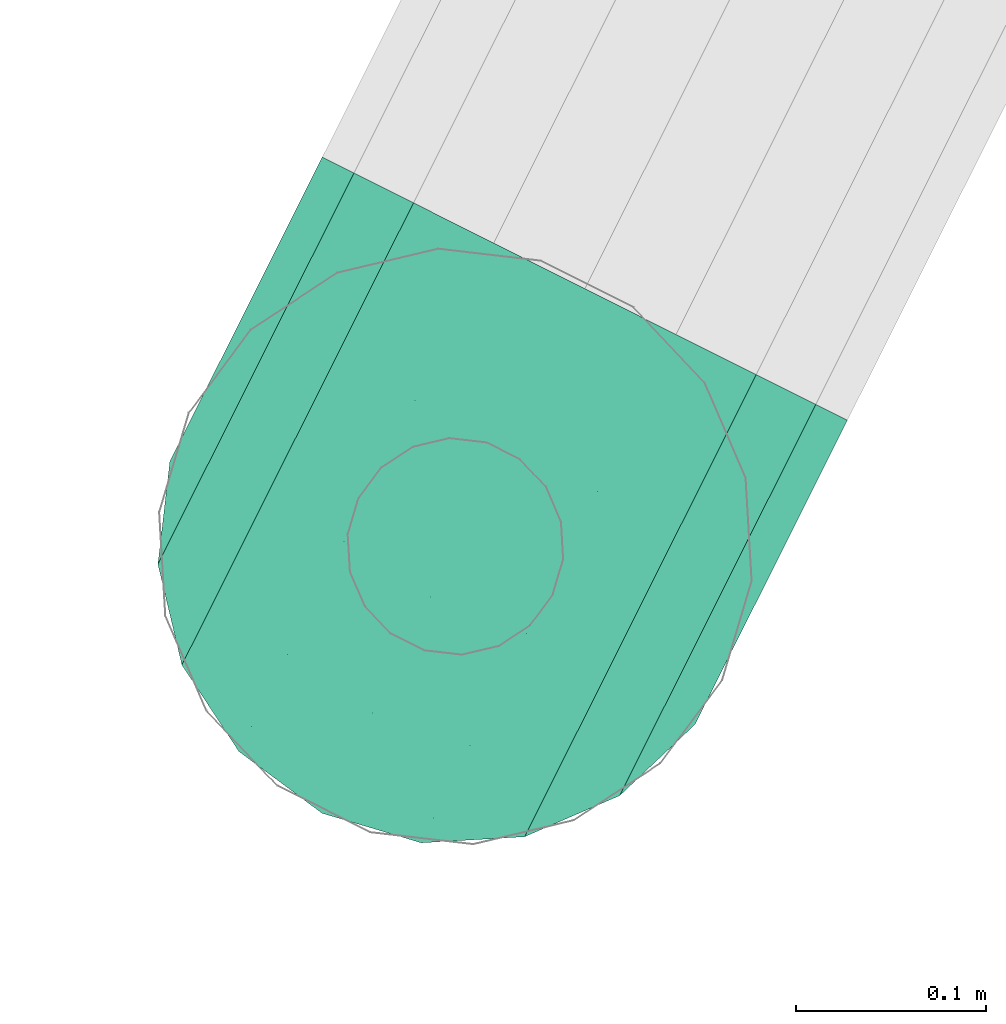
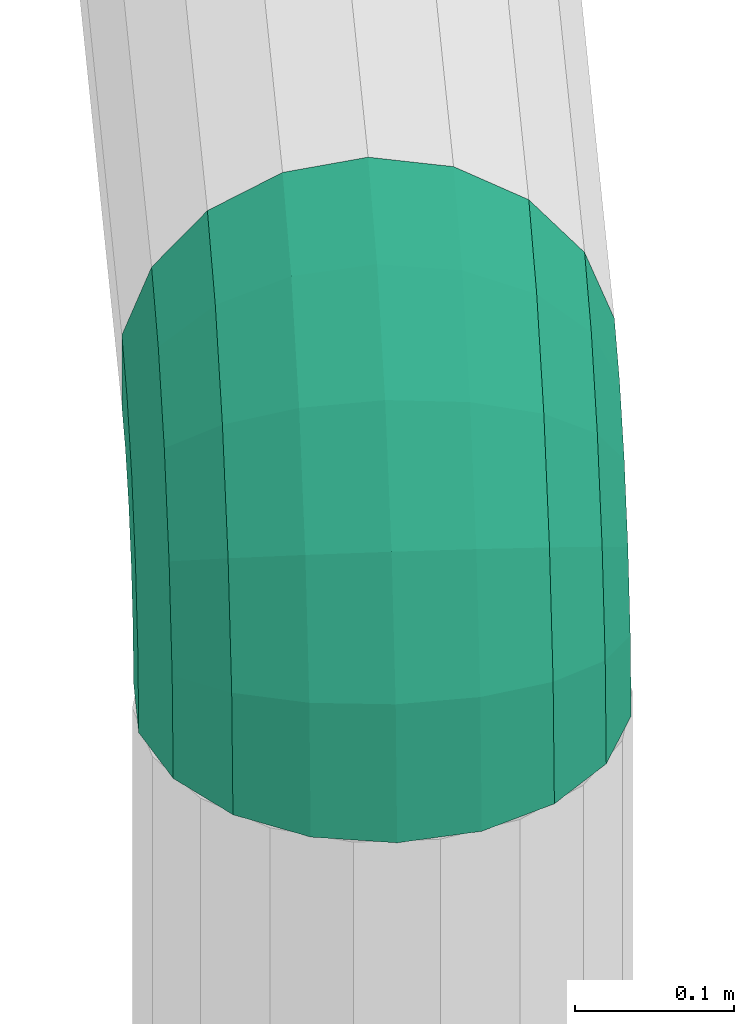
# One storey, part 50 of 152: 1 flow segment.
"""IFC2X3 building model written with IfcOpenShell, lengths in metres."""

from ifc_helpers import new_model, si_unit, derived_unit, direction, frame, origin, place, context, subcontext, project, spatial, face_set, surface_model, source, transform, mapped, material, type_object, type_shapes, element, save


model = new_model("IFC2X3")

# Units and contexts
model_context = context("Model", 3, precision=5.2338327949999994e-05, world=origin(), true_north=direction((0.0, 1.0)))
body_context = subcontext(model_context, "Body", "Model", "MODEL_VIEW")
ifc_project = project(units=[si_unit("LENGTHUNIT", "METRE"), si_unit("AREAUNIT", "SQUARE_METRE"), si_unit("VOLUMEUNIT", "CUBIC_METRE"), si_unit("MASSUNIT", "GRAM", prefix="KILO"), si_unit("PLANEANGLEUNIT", "RADIAN"), derived_unit("THERMALTRANSMITTANCEUNIT", [(si_unit("MASSUNIT", "GRAM", prefix="KILO"), 1), (si_unit("THERMODYNAMICTEMPERATUREUNIT", "KELVIN"), -1), (si_unit("TIMEUNIT", "SECOND"), -3)])], contexts=[model_context])

# Site, building, storey
site_placement = place(None, frame((0.0, 0.0, 0.0), z_axis=(0.0, 0.0, 1.0), x_axis=(0.8939966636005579, -0.4480736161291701, 0.0)))
site = spatial("IfcSite", under=ifc_project, at=site_placement, Name="Default", CompositionType="ELEMENT")
building_placement = place(site_placement, origin())
building = spatial("IfcBuilding", under=site, at=building_placement, CompositionType="ELEMENT")
storey_placement = place(building_placement, frame((0.0, 0.0, 2.7499999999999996)))
storey = spatial("IfcBuildingStorey", under=building, at=storey_placement, Name="1. Obergeschoss", CompositionType="ELEMENT", Elevation=2.7499999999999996)

# Flow segment
ifc_material = material(Name="IfcSurfaceStyle #9317")
distribution_element_type = type_object("IfcDistributionElementType", Name="Rohrbogen 9709:Rohrbogen 9709", material=ifc_material)
shared_shape = source(origin(), body_context, "Body", "SurfaceModel", [
    surface_model("IfcFaceBasedSurfaceModel", [(25.095700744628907, 0.6996688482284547, 6.717313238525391), (25.095700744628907, 0.7642997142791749, 6.727549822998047), (25.076153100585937, 0.7007338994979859, 6.7140355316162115), (25.076153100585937, 0.7642997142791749, 6.724103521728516), (25.095700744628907, 0.6413644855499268, 6.687605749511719), (25.076153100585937, 0.6433903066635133, 6.684817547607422), (25.095700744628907, 0.5950938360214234, 6.641335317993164), (25.076153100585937, 0.5978821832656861, 6.6393092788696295), (25.095700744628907, 0.5653862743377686, 6.5830307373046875), (25.076153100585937, 0.5686641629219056, 6.581965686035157), (25.095700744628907, 0.5551497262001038, 6.518399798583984), (25.076153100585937, 0.5585963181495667, 6.518399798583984), (25.058965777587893, 0.7038005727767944, 6.70459715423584), (25.058965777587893, 0.7642997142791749, 6.714179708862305), (25.058965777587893, 0.6492234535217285, 6.676788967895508), (25.058965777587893, 0.6059108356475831, 6.633476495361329), (25.058965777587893, 0.5781024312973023, 6.578899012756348), (25.058965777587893, 0.5685203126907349, 6.518399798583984), (25.046206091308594, 0.7084989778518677, 6.690136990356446), (25.046206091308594, 0.7642997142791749, 6.698974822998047), (25.046206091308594, 0.6581604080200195, 6.66448797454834), (25.046206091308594, 0.6182114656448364, 6.624539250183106), (25.046206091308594, 0.5925627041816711, 6.574200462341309), (25.046206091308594, 0.5837247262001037, 6.518399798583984), (25.039418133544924, 0.7642997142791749, 6.680324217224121), (25.039418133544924, 0.7142625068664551, 6.672399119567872), (25.039418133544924, 0.669123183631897, 6.649399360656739), (25.039418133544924, 0.6333004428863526, 6.613576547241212), (25.039418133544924, 0.6103009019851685, 6.568437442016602), (25.039418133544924, 0.6023757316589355, 6.518399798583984), (25.039418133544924, 0.7203958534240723, 6.653522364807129), (25.039418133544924, 0.7642997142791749, 6.660476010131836), (25.039418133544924, 0.6807895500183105, 6.633341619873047), (25.039418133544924, 0.6493578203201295, 6.601910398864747), (25.039418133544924, 0.629177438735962, 6.562304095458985), (25.039418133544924, 0.622223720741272, 6.518399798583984), (25.046206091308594, 0.7261593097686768, 6.635783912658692), (25.046206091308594, 0.7642997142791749, 6.641824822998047), (25.046206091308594, 0.6917523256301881, 6.618253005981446), (25.046206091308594, 0.6644467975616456, 6.590947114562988), (25.046206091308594, 0.6469156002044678, 6.556540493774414), (25.046206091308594, 0.6408747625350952, 6.518399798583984), (25.058965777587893, 0.7308577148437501, 6.6213237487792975), (25.058965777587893, 0.7642997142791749, 6.626620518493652), (25.058965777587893, 0.7006892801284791, 6.605952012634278), (25.058965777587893, 0.6767475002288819, 6.5820104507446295), (25.058965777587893, 0.6613758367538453, 6.551841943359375), (25.058965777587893, 0.6560792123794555, 6.518399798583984), (25.076153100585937, 0.7339244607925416, 6.611885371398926), (25.076153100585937, 0.7642997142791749, 6.616696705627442), (25.076153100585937, 0.7065224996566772, 6.5979234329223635), (25.076153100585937, 0.6847761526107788, 6.576177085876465), (25.076153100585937, 0.6708141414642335, 6.548775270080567), (25.076153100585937, 0.6660031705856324, 6.518399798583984), (25.095700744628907, 0.7642997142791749, 6.613249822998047), (25.095700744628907, 0.7349895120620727, 6.608607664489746), (25.095700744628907, 0.7085483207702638, 6.595135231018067), (25.095700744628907, 0.6875644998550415, 6.574151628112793), (25.095700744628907, 0.6740920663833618, 6.547710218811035), (25.095700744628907, 0.6694497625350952, 6.518399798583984), (25.115246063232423, 0.7339244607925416, 6.611885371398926), (25.115246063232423, 0.7642997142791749, 6.616696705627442), (25.115246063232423, 0.7065224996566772, 6.5979234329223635), (25.115246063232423, 0.6847761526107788, 6.576177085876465), (25.115246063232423, 0.6708141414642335, 6.548775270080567), (25.115246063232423, 0.6660031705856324, 6.518399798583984), (25.132435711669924, 0.7642997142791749, 6.626620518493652), (25.132435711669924, 0.7308577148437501, 6.6213237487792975), (25.132435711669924, 0.7006892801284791, 6.605952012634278), (25.132435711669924, 0.6767475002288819, 6.5820104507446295), (25.132435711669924, 0.6613758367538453, 6.551841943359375), (25.132435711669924, 0.6560792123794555, 6.518399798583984), (25.145193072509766, 0.7642997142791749, 6.641824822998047), (25.145193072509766, 0.7261593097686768, 6.635783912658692), (25.145193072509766, 0.6917523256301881, 6.618253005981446), (25.145193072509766, 0.6644467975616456, 6.590947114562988), (25.145193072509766, 0.6469156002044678, 6.556540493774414), (25.145193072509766, 0.6408747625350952, 6.518399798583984), (25.15198103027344, 0.7642997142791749, 6.660476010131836), (25.15198103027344, 0.7203958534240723, 6.653522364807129), (25.15198103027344, 0.6807895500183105, 6.633341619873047), (25.15198103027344, 0.6493578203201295, 6.601910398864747), (25.15198103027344, 0.629177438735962, 6.562304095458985), (25.15198103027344, 0.622223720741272, 6.518399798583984), (25.15198103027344, 0.7642997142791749, 6.680324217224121), (25.15198103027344, 0.7142625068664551, 6.672399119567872), (25.15198103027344, 0.669123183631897, 6.649399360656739), (25.15198103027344, 0.6333004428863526, 6.613576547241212), (25.15198103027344, 0.6103009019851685, 6.568437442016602), (25.15198103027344, 0.6023757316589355, 6.518399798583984), (25.145193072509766, 0.7084989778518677, 6.690136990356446), (25.145193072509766, 0.7642997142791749, 6.698974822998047), (25.145193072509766, 0.6581604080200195, 6.66448797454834), (25.145193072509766, 0.6182114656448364, 6.624539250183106), (25.145193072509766, 0.5925627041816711, 6.574200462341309), (25.145193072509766, 0.5837247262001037, 6.518399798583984), (25.132435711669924, 0.7642997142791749, 6.714179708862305), (25.132435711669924, 0.7038005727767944, 6.70459715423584), (25.132435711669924, 0.6492234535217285, 6.676788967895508), (25.132435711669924, 0.6059108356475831, 6.633476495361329), (25.132435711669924, 0.5781024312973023, 6.578899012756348), (25.132435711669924, 0.5685203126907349, 6.518399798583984), (25.115246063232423, 0.7007338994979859, 6.7140355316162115), (25.115246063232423, 0.7642997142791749, 6.724103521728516), (25.115246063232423, 0.6433903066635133, 6.684817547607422), (25.115246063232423, 0.5978821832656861, 6.6393092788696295), (25.115246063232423, 0.5686641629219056, 6.581965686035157), (25.115246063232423, 0.5585963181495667, 6.518399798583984), (25.095700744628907, 0.6687671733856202, 6.812419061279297), (25.095700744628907, 0.7642997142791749, 6.8275501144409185), (25.041950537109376, 0.7642997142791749, 6.818072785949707), (25.041950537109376, 0.6716957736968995, 6.803405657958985), (25.095700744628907, 0.5825859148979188, 6.7685077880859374), (25.041950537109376, 0.5881565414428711, 6.760840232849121), (25.095700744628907, 0.5141921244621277, 6.700113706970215), (25.041950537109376, 0.521859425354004, 6.694543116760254), (25.095700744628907, 0.4702806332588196, 6.61393233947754), (25.041950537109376, 0.47929407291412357, 6.611004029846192), (25.095700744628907, 0.4551497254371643, 6.518399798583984), (25.041950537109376, 0.4646270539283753, 6.518399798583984), (24.99468598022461, 0.6801284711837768, 6.777452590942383), (24.99468598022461, 0.7642997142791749, 6.790783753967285), (24.99468598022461, 0.604196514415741, 6.738763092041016), (24.99468598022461, 0.5439365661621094, 6.6785033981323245), (24.99468598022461, 0.505247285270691, 6.602571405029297), (24.99468598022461, 0.4919158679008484, 6.518399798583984), (24.959604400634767, 0.693048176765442, 6.737689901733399), (24.959604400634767, 0.7642997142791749, 6.748975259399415), (24.959604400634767, 0.6287711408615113, 6.70493899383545), (24.959604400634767, 0.5777606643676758, 6.653928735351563), (24.959604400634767, 0.5450099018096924, 6.589651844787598), (24.959604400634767, 0.5337247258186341, 6.518399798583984), (24.94093809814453, 0.7088964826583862, 6.688913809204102), (24.94093809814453, 0.7642997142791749, 6.697688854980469), (24.94093809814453, 0.6589163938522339, 6.66344792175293), (24.94093809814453, 0.619252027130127, 6.623783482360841), (24.94093809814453, 0.5937859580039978, 6.573803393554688), (24.94093809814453, 0.5850109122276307, 6.518399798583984), (24.94093809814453, 0.7257618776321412, 6.637007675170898), (24.94093809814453, 0.7642997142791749, 6.643111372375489), (24.94093809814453, 0.6909963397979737, 6.6192936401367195), (24.94093809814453, 0.663406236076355, 6.591703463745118), (24.94093809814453, 0.6456923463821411, 6.556938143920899), (24.94093809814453, 0.6395885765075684, 6.518399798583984), (24.959604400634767, 0.7642997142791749, 6.591824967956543), (24.959604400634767, 0.7416101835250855, 6.588231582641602), (24.959604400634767, 0.7211415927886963, 6.577801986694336), (24.959604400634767, 0.7048976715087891, 6.561558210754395), (24.959604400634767, 0.6944684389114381, 6.541089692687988), (24.959604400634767, 0.690874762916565, 6.518399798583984), (24.99468598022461, 0.7642997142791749, 6.550015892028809), (24.99468598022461, 0.7545298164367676, 6.548468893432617), (24.99468598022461, 0.7457162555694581, 6.54397788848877), (24.99468598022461, 0.7387217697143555, 6.536983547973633), (24.99468598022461, 0.7342310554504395, 6.52817013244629), (24.99468598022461, 0.7326836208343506, 6.518399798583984), (25.041950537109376, 0.7642997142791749, 6.52272744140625), (25.041950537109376, 0.762962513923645, 6.5225152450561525), (25.041950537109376, 0.7617561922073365, 6.5219007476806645), (25.041950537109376, 0.760798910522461, 6.52094324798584), (25.041950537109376, 0.760184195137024, 6.519736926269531), (25.041950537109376, 0.7599724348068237, 6.518399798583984), (25.06649322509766, 0.7642997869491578, 6.518399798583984), (25.06582582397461, 0.7635565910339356, 6.518399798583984), (25.124905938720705, 0.7642997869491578, 6.518399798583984), (25.12557333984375, 0.7635565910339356, 6.518399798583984), (25.149448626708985, 0.762962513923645, 6.5225152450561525), (25.149448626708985, 0.7642997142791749, 6.52272744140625), (25.149448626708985, 0.7617561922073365, 6.5219007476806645), (25.149448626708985, 0.760798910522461, 6.52094324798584), (25.149448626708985, 0.760184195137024, 6.519736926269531), (25.149448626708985, 0.7599724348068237, 6.518399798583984), (25.19671318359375, 0.7642997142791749, 6.550015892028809), (25.19671318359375, 0.7545298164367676, 6.548468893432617), (25.19671318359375, 0.7457162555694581, 6.54397788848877), (25.19671318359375, 0.7387217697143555, 6.536983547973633), (25.19671318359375, 0.7342310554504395, 6.52817013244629), (25.19671318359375, 0.7326836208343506, 6.518399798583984), (25.231794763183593, 0.7642997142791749, 6.591824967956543), (25.231794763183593, 0.7416101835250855, 6.588231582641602), (25.231794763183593, 0.7211415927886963, 6.577801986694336), (25.231794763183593, 0.7048976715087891, 6.561558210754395), (25.231794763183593, 0.6944684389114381, 6.541089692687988), (25.231794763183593, 0.690874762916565, 6.518399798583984), (25.250463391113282, 0.7642997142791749, 6.643111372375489), (25.250463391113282, 0.7257618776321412, 6.637007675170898), (25.250463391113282, 0.6909963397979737, 6.6192936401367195), (25.250463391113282, 0.663406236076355, 6.591703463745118), (25.250463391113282, 0.6456923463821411, 6.556938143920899), (25.250463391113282, 0.6395885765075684, 6.518399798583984), (25.250463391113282, 0.7642997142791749, 6.697688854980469), (25.250463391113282, 0.7088964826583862, 6.688913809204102), (25.250463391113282, 0.6589163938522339, 6.66344792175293), (25.250463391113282, 0.619252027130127, 6.623783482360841), (25.250463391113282, 0.5937859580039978, 6.573803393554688), (25.250463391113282, 0.5850109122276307, 6.518399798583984), (25.231794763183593, 0.7642997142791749, 6.748975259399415), (25.231794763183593, 0.693048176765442, 6.737689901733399), (25.231794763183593, 0.6287711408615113, 6.70493899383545), (25.231794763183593, 0.5777606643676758, 6.653928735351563), (25.231794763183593, 0.5450099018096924, 6.589651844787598), (25.231794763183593, 0.5337247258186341, 6.518399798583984), (25.19671318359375, 0.6801284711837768, 6.777452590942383), (25.19671318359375, 0.7642997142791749, 6.790783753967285), (25.19671318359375, 0.604196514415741, 6.738763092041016), (25.19671318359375, 0.5439365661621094, 6.6785033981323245), (25.19671318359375, 0.505247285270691, 6.602571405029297), (25.19671318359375, 0.4919158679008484, 6.518399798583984), (25.149448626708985, 0.7642997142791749, 6.818072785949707), (25.149448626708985, 0.6716957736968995, 6.803405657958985), (25.149448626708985, 0.5881565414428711, 6.760840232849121), (25.149448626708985, 0.521859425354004, 6.694543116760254), (25.149448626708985, 0.47929407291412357, 6.611004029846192), (25.149448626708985, 0.4646270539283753, 6.518399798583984)], [face_set([[[0, 1, 2]], [[3, 2, 1]], [[4, 0, 5]], [[2, 5, 0]], [[6, 4, 7]], [[5, 7, 4]], [[8, 6, 7]], [[7, 9, 8]], [[10, 8, 9]], [[9, 11, 10]], [[2, 3, 12]], [[13, 12, 3]], [[5, 2, 12]], [[12, 14, 5]], [[7, 5, 15]], [[14, 15, 5]], [[9, 7, 16]], [[15, 16, 7]], [[11, 9, 17]], [[16, 17, 9]], [[12, 13, 18]], [[19, 18, 13]], [[14, 12, 20]], [[18, 20, 12]], [[15, 14, 21]], [[20, 21, 14]], [[16, 15, 21]], [[21, 22, 16]], [[17, 16, 23]], [[22, 23, 16]], [[18, 19, 24]], [[24, 25, 18]], [[20, 18, 25]], [[25, 26, 20]], [[21, 20, 26]], [[26, 27, 21]], [[22, 21, 27]], [[27, 28, 22]], [[23, 22, 28]], [[28, 29, 23]], [[25, 24, 30]], [[31, 30, 24]], [[26, 25, 32]], [[30, 32, 25]], [[27, 26, 33]], [[32, 33, 26]], [[28, 27, 33]], [[33, 34, 28]], [[29, 28, 35]], [[34, 35, 28]], [[30, 31, 36]], [[37, 36, 31]], [[32, 30, 38]], [[36, 38, 30]], [[33, 32, 39]], [[38, 39, 32]], [[34, 33, 40]], [[39, 40, 33]], [[35, 34, 41]], [[40, 41, 34]], [[36, 37, 42]], [[43, 42, 37]], [[38, 36, 44]], [[42, 44, 36]], [[39, 38, 45]], [[44, 45, 38]], [[40, 39, 46]], [[45, 46, 39]], [[41, 40, 47]], [[46, 47, 40]], [[42, 43, 48]], [[49, 48, 43]], [[44, 42, 50]], [[48, 50, 42]], [[45, 44, 50]], [[50, 51, 45]], [[46, 45, 51]], [[51, 52, 46]], [[47, 46, 52]], [[52, 53, 47]], [[48, 49, 54]], [[54, 55, 48]], [[50, 48, 56]], [[55, 56, 48]], [[51, 50, 57]], [[56, 57, 50]], [[52, 51, 57]], [[57, 58, 52]], [[53, 52, 58]], [[58, 59, 53]], [[55, 54, 60]], [[61, 60, 54]], [[56, 55, 62]], [[60, 62, 55]], [[57, 56, 62]], [[62, 63, 57]], [[58, 57, 64]], [[63, 64, 57]], [[59, 58, 65]], [[64, 65, 58]], [[60, 61, 66]], [[66, 67, 60]], [[62, 60, 68]], [[67, 68, 60]], [[63, 62, 69]], [[68, 69, 62]], [[64, 63, 70]], [[69, 70, 63]], [[65, 64, 71]], [[70, 71, 64]], [[67, 66, 72]], [[72, 73, 67]], [[68, 67, 74]], [[73, 74, 67]], [[69, 68, 75]], [[74, 75, 68]], [[70, 69, 76]], [[75, 76, 69]], [[71, 70, 76]], [[76, 77, 71]], [[73, 72, 78]], [[78, 79, 73]], [[74, 73, 79]], [[79, 80, 74]], [[75, 74, 81]], [[80, 81, 74]], [[76, 75, 81]], [[81, 82, 76]], [[77, 76, 82]], [[82, 83, 77]], [[79, 78, 84]], [[84, 85, 79]], [[80, 79, 85]], [[85, 86, 80]], [[81, 80, 87]], [[86, 87, 80]], [[82, 81, 88]], [[87, 88, 81]], [[83, 82, 88]], [[88, 89, 83]], [[85, 84, 90]], [[91, 90, 84]], [[86, 85, 92]], [[90, 92, 85]], [[87, 86, 93]], [[92, 93, 86]], [[88, 87, 94]], [[93, 94, 87]], [[89, 88, 95]], [[94, 95, 88]], [[90, 91, 96]], [[96, 97, 90]], [[92, 90, 97]], [[97, 98, 92]], [[93, 92, 98]], [[98, 99, 93]], [[94, 93, 100]], [[99, 100, 93]], [[95, 94, 100]], [[100, 101, 95]], [[97, 96, 102]], [[103, 102, 96]], [[98, 97, 102]], [[102, 104, 98]], [[99, 98, 104]], [[104, 105, 99]], [[100, 99, 105]], [[105, 106, 100]], [[101, 100, 106]], [[106, 107, 101]], [[102, 103, 1]], [[1, 0, 102]], [[104, 102, 4]], [[0, 4, 102]], [[105, 104, 6]], [[4, 6, 104]], [[106, 105, 8]], [[6, 8, 105]], [[107, 106, 10]], [[8, 10, 106]], [[108, 109, 110]], [[110, 111, 108]], [[112, 108, 113]], [[111, 113, 108]], [[114, 112, 113]], [[113, 115, 114]], [[116, 114, 115]], [[115, 117, 116]], [[118, 116, 117]], [[117, 119, 118]], [[111, 110, 120]], [[121, 120, 110]], [[113, 111, 120]], [[120, 122, 113]], [[115, 113, 123]], [[122, 123, 113]], [[117, 115, 123]], [[123, 124, 117]], [[119, 117, 124]], [[124, 125, 119]], [[120, 121, 126]], [[127, 126, 121]], [[122, 120, 126]], [[126, 128, 122]], [[123, 122, 128]], [[128, 129, 123]], [[124, 123, 129]], [[129, 130, 124]], [[125, 124, 130]], [[130, 131, 125]], [[126, 127, 132]], [[133, 132, 127]], [[128, 126, 134]], [[132, 134, 126]], [[129, 128, 134]], [[134, 135, 129]], [[130, 129, 136]], [[135, 136, 129]], [[131, 130, 137]], [[136, 137, 130]], [[132, 133, 138]], [[139, 138, 133]], [[134, 132, 138]], [[138, 140, 134]], [[135, 134, 140]], [[140, 141, 135]], [[136, 135, 141]], [[141, 142, 136]], [[137, 136, 142]], [[142, 143, 137]], [[138, 139, 144]], [[144, 145, 138]], [[140, 138, 145]], [[145, 146, 140]], [[141, 140, 146]], [[146, 147, 141]], [[142, 141, 147]], [[147, 148, 142]], [[143, 142, 148]], [[148, 149, 143]], [[145, 144, 150]], [[150, 151, 145]], [[146, 145, 152]], [[151, 152, 145]], [[147, 146, 152]], [[152, 153, 147]], [[148, 147, 154]], [[153, 154, 147]], [[149, 148, 154]], [[154, 155, 149]], [[151, 150, 156]], [[156, 157, 151]], [[152, 151, 158]], [[157, 158, 151]], [[153, 152, 158]], [[158, 159, 153]], [[154, 153, 159]], [[159, 160, 154]], [[155, 154, 160]], [[160, 161, 155]], [[162, 157, 163]], [[162, 163, 156]], [[157, 156, 163]], [[158, 157, 162]], [[159, 158, 162]], [[160, 159, 162]], [[161, 160, 162]], [[164, 165, 166]], [[167, 166, 165]], [[165, 164, 167]], [[166, 168, 164]], [[164, 168, 169]], [[169, 170, 164]], [[170, 171, 164]], [[166, 167, 172]], [[172, 173, 166]], [[168, 166, 173]], [[173, 174, 168]], [[169, 168, 175]], [[174, 175, 168]], [[170, 169, 176]], [[175, 176, 169]], [[171, 170, 176]], [[176, 177, 171]], [[173, 172, 178]], [[178, 179, 173]], [[174, 173, 179]], [[179, 180, 174]], [[175, 174, 180]], [[180, 181, 175]], [[176, 175, 182]], [[181, 182, 175]], [[177, 176, 182]], [[182, 183, 177]], [[179, 178, 184]], [[184, 185, 179]], [[180, 179, 186]], [[185, 186, 179]], [[181, 180, 187]], [[186, 187, 180]], [[182, 181, 187]], [[187, 188, 182]], [[183, 182, 188]], [[188, 189, 183]], [[185, 184, 190]], [[190, 191, 185]], [[186, 185, 191]], [[191, 192, 186]], [[187, 186, 193]], [[192, 193, 186]], [[188, 187, 194]], [[193, 194, 187]], [[189, 188, 195]], [[194, 195, 188]], [[191, 190, 196]], [[196, 197, 191]], [[192, 191, 197]], [[197, 198, 192]], [[193, 192, 199]], [[198, 199, 192]], [[194, 193, 200]], [[199, 200, 193]], [[195, 194, 200]], [[200, 201, 195]], [[197, 196, 202]], [[203, 202, 196]], [[198, 197, 204]], [[202, 204, 197]], [[199, 198, 205]], [[204, 205, 198]], [[200, 199, 206]], [[205, 206, 199]], [[201, 200, 207]], [[206, 207, 200]], [[202, 203, 208]], [[208, 209, 202]], [[204, 202, 209]], [[209, 210, 204]], [[205, 204, 210]], [[210, 211, 205]], [[206, 205, 212]], [[211, 212, 205]], [[207, 206, 213]], [[212, 213, 206]], [[209, 208, 109]], [[109, 108, 209]], [[210, 209, 112]], [[108, 112, 209]], [[211, 210, 112]], [[112, 114, 211]], [[212, 211, 116]], [[114, 116, 211]], [[213, 212, 118]], [[116, 118, 212]]])]),
])
type_shapes(distribution_element_type, [shared_shape])
flow_segment_placement = place(storey_placement, frame((0.0, 0.0, -2.7499999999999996)))
element("IfcFlowSegment", 1, at=flow_segment_placement, inside=storey, type_object=distribution_element_type, material=ifc_material, Name="Rohrbogen", ObjectType="Rohrbogen", context=body_context, shape_type="MappedRepresentation", body=[
    mapped(shared_shape, transform((0.0, 0.0, 0.0), scale=1.0)),
])

save(model, "model.ifc")
